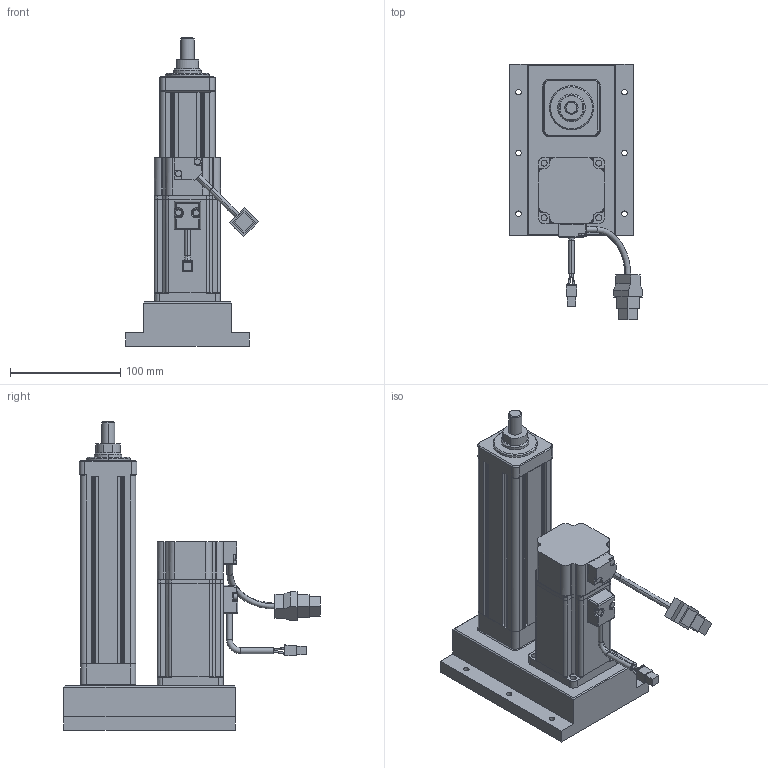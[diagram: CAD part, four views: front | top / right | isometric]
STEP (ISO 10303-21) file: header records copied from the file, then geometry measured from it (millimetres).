
FILE_DESCRIPTION (( 'STEP AP203' ), '1' );
FILE_NAME ('S1殏殿綴楊擘假蚾.STEP', '2024-05-27T05:03:31', ( '' ), ( '' ), 'SwSTEP 2.0', 'SolidWorks 2018', '' );
FILE_SCHEMA (( 'CONFIG_CONTROL_DESIGN' ));
Length unit declared in the file: millimetre
Products named in the file (3): EC; S1殏殿綴楊擘假蚾; S1殏殿綴楊擘
Assembly tree (2 placements, depth 2):
  S1殏殿綴楊擘假蚾
    S1殏殿綴楊擘
    EC
Bounding box: 120.24 x 231.81 x 279 mm (x, y, z)
Volume: 1257261.6 mm3; surface area: 205346.4 mm2
Topology: 2 solids, 9 shells, 658 faces, 1612 edges, 996 vertices
Faces by surface type: plane 347, cylinder 232, cone 50, bspline 11, torus 10, sphere 8
Entity records: 20971 total; most frequent: CARTESIAN_POINT 5335, ORIENTED_EDGE 3220, DIRECTION 3115, EDGE_CURVE 1610, AXIS2_PLACEMENT_3D 1060, VERTEX_POINT 996, VECTOR 995, LINE 995
